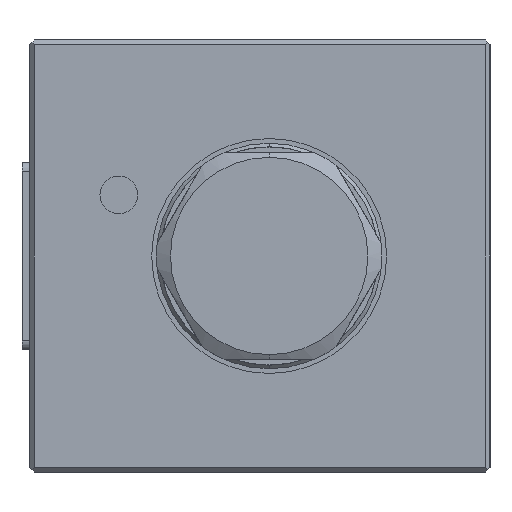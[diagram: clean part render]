
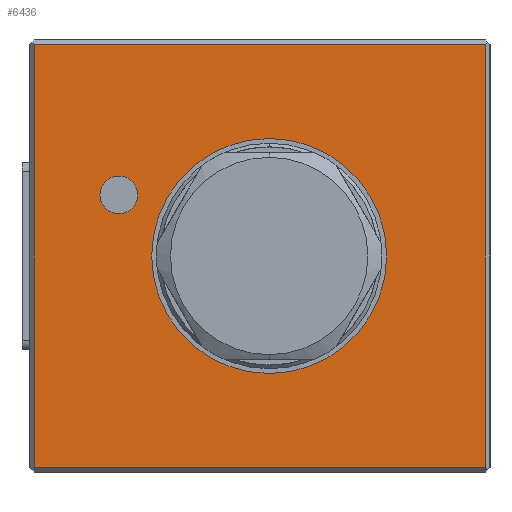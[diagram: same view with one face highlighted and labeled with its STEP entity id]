
A CAD part, left-side view. The second image highlights one B-rep face of the part: STEP entity #6436.
In plain terms, the highlighted planar face has unit normal (-1, 0, 0).
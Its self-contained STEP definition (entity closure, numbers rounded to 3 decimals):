
#1485 = CARTESIAN_POINT ( 'NONE',  ( -34., -0.5, 0. ) ) ;
#1636 = ORIENTED_EDGE ( 'NONE', *, *, #11901, .F. ) ;
#1790 = AXIS2_PLACEMENT_3D ( 'NONE', #12941, #19446, #14615 ) ;
#2202 = VERTEX_POINT ( 'NONE', #9825 ) ;
#2483 = CARTESIAN_POINT ( 'NONE',  ( -34., 24.5, -23. ) ) ;
#3069 = EDGE_CURVE ( 'NONE', #17109, #16490, #10597, .T. ) ;
#3329 = CARTESIAN_POINT ( 'NONE',  ( -34., 25., -23. ) ) ;
#3423 = VECTOR ( 'NONE', #18927, 1000. ) ;
#3436 = CIRCLE ( 'NONE', #6181, 12.5 ) ;
#4157 = EDGE_CURVE ( 'NONE', #6989, #12678, #12271, .T. ) ;
#4406 = CARTESIAN_POINT ( 'NONE',  ( -34., 24.5, 22.5 ) ) ;
#5031 = CARTESIAN_POINT ( 'NONE',  ( -34., -0.5, 0. ) ) ;
#5332 = DIRECTION ( 'NONE',  ( 1., 0., 0. ) ) ;
#5378 = AXIS2_PLACEMENT_3D ( 'NONE', #3329, #11248, #6234 ) ;
#5623 = DIRECTION ( 'NONE',  ( 0., 0., 1. ) ) ;
#5703 = FACE_BOUND ( 'NONE', #13541, .T. ) ;
#6181 = AXIS2_PLACEMENT_3D ( 'NONE', #1485, #14511, #12932 ) ;
#6234 = DIRECTION ( 'NONE',  ( 0., -1., 0. ) ) ;
#6436 = ADVANCED_FACE ( 'NONE', ( #10830, #20369, #5703 ), #13922, .T. ) ;
#6989 = VERTEX_POINT ( 'NONE', #18576 ) ;
#7934 = ORIENTED_EDGE ( 'NONE', *, *, #3069, .T. ) ;
#8241 = CARTESIAN_POINT ( 'NONE',  ( -34., -0.5, -12.5 ) ) ;
#8755 = CARTESIAN_POINT ( 'NONE',  ( -34., -23.5, -23. ) ) ;
#9268 = VECTOR ( 'NONE', #16010, 1000. ) ;
#9382 = EDGE_LOOP ( 'NONE', ( #1636, #19391 ) ) ;
#9544 = ORIENTED_EDGE ( 'NONE', *, *, #4157, .T. ) ;
#9652 = CIRCLE ( 'NONE', #1790, 2. ) ;
#9825 = CARTESIAN_POINT ( 'NONE',  ( -34., -0.5, 12.5 ) ) ;
#9961 = AXIS2_PLACEMENT_3D ( 'NONE', #18595, #18806, #19023 ) ;
#10292 = ORIENTED_EDGE ( 'NONE', *, *, #18818, .T. ) ;
#10320 = CIRCLE ( 'NONE', #9961, 2. ) ;
#10597 = LINE ( 'NONE', #2483, #3423 ) ;
#10667 = CIRCLE ( 'NONE', #10997, 12.5 ) ;
#10830 = FACE_OUTER_BOUND ( 'NONE', #12337, .T. ) ;
#10997 = AXIS2_PLACEMENT_3D ( 'NONE', #5031, #5332, #11849 ) ;
#11248 = DIRECTION ( 'NONE',  ( -1., 0., 0. ) ) ;
#11324 = CARTESIAN_POINT ( 'NONE',  ( -34., 15.5, 4.5 ) ) ;
#11496 = EDGE_CURVE ( 'NONE', #16490, #6989, #19328, .T. ) ;
#11667 = EDGE_CURVE ( 'NONE', #13384, #17168, #10320, .T. ) ;
#11849 = DIRECTION ( 'NONE',  ( 0., 0., -1. ) ) ;
#11901 = EDGE_CURVE ( 'NONE', #17168, #13384, #9652, .T. ) ;
#11928 = VERTEX_POINT ( 'NONE', #8241 ) ;
#12271 = LINE ( 'NONE', #8755, #19245 ) ;
#12337 = EDGE_LOOP ( 'NONE', ( #18799, #9544, #13465, #7934 ) ) ;
#12678 = VERTEX_POINT ( 'NONE', #14525 ) ;
#12932 = DIRECTION ( 'NONE',  ( 0., 0., -1. ) ) ;
#12941 = CARTESIAN_POINT ( 'NONE',  ( -34., 15.5, 6.5 ) ) ;
#13384 = VERTEX_POINT ( 'NONE', #11324 ) ;
#13465 = ORIENTED_EDGE ( 'NONE', *, *, #14279, .T. ) ;
#13541 = EDGE_LOOP ( 'NONE', ( #10292, #18854 ) ) ;
#13922 = PLANE ( 'NONE',  #5378 ) ;
#14199 = VECTOR ( 'NONE', #17853, 1000. ) ;
#14279 = EDGE_CURVE ( 'NONE', #12678, #17109, #19361, .T. ) ;
#14504 = CARTESIAN_POINT ( 'NONE',  ( -34., 25., -22.5 ) ) ;
#14511 = DIRECTION ( 'NONE',  ( 1., 0., 0. ) ) ;
#14525 = CARTESIAN_POINT ( 'NONE',  ( -34., -23.5, 22.5 ) ) ;
#14615 = DIRECTION ( 'NONE',  ( 0., 0., 1. ) ) ;
#15935 = CARTESIAN_POINT ( 'NONE',  ( -34., 25., 22.5 ) ) ;
#16010 = DIRECTION ( 'NONE',  ( 0., -1., 0. ) ) ;
#16490 = VERTEX_POINT ( 'NONE', #19764 ) ;
#17109 = VERTEX_POINT ( 'NONE', #4406 ) ;
#17168 = VERTEX_POINT ( 'NONE', #20858 ) ;
#17647 = EDGE_CURVE ( 'NONE', #2202, #11928, #3436, .T. ) ;
#17853 = DIRECTION ( 'NONE',  ( 0., 1., 0. ) ) ;
#18576 = CARTESIAN_POINT ( 'NONE',  ( -34., -23.5, -22.5 ) ) ;
#18595 = CARTESIAN_POINT ( 'NONE',  ( -34., 15.5, 6.5 ) ) ;
#18799 = ORIENTED_EDGE ( 'NONE', *, *, #11496, .T. ) ;
#18806 = DIRECTION ( 'NONE',  ( -1., 0., 0. ) ) ;
#18818 = EDGE_CURVE ( 'NONE', #11928, #2202, #10667, .T. ) ;
#18854 = ORIENTED_EDGE ( 'NONE', *, *, #17647, .T. ) ;
#18927 = DIRECTION ( 'NONE',  ( 0., 0., -1. ) ) ;
#19023 = DIRECTION ( 'NONE',  ( 0., 0., 1. ) ) ;
#19245 = VECTOR ( 'NONE', #5623, 1000. ) ;
#19328 = LINE ( 'NONE', #14504, #9268 ) ;
#19361 = LINE ( 'NONE', #15935, #14199 ) ;
#19391 = ORIENTED_EDGE ( 'NONE', *, *, #11667, .F. ) ;
#19446 = DIRECTION ( 'NONE',  ( -1., 0., 0. ) ) ;
#19764 = CARTESIAN_POINT ( 'NONE',  ( -34., 24.5, -22.5 ) ) ;
#20369 = FACE_BOUND ( 'NONE', #9382, .T. ) ;
#20858 = CARTESIAN_POINT ( 'NONE',  ( -34., 15.5, 8.5 ) ) ;
